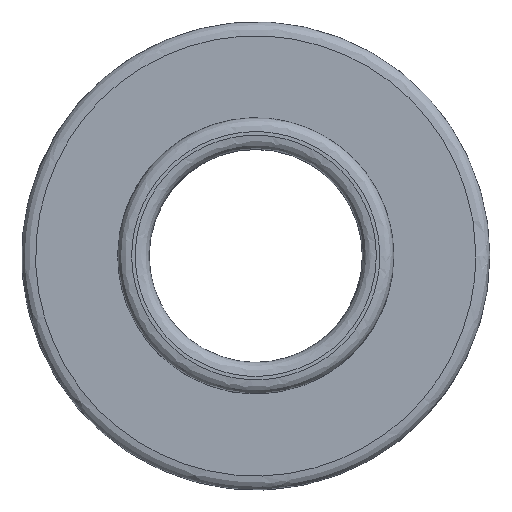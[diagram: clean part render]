
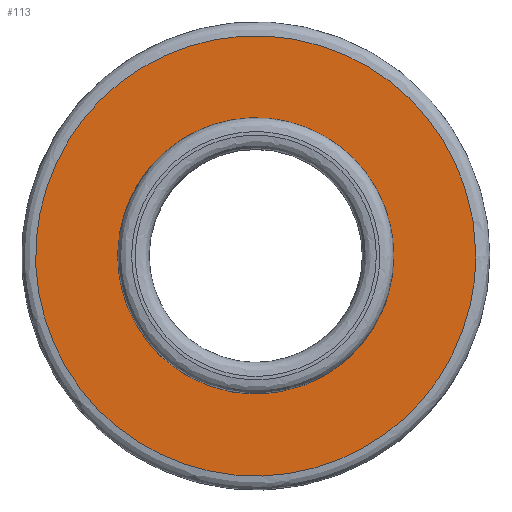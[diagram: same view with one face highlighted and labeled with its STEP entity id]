
A CAD part, top view. The second image highlights one B-rep face of the part: STEP entity #113.
In plain terms, the highlighted planar face has unit normal (0, 0, 1).
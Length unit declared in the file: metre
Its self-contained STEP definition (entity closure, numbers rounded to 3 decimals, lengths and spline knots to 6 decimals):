
#16=CIRCLE('',#137,0.001975);
#18=PLANE('',#136);
#23=ORIENTED_EDGE('',*,*,#43,.T.);
#24=ORIENTED_EDGE('',*,*,#44,.F.);
#43=EDGE_CURVE('',#53,#53,#63,.T.);
#44=EDGE_CURVE('',#54,#54,#16,.T.);
#53=VERTEX_POINT('',#207);
#54=VERTEX_POINT('',#209);
#63=B_SPLINE_CURVE_WITH_KNOTS('',3,(#188,#189,#190,#191,#192,#193,#194,#195,#196,#197,#198,#199,#200,#201,#202,#203,#204,#205,#206),.UNSPECIFIED.,.T.,.F.,(1,1,1,1,1,1,1,1,1,1,1,1,1,1,1,1,1,1,1,1,1,1,1),(-0.190789,-0.128289,-0.065789,0.,0.059375,0.121719,0.184211,0.246711,0.309211,0.371711,0.434211,0.496711,0.559211,0.621711,0.684211,0.746711,0.809211,0.871711,0.934211,1.,1.059375,1.121719,1.184211),.UNSPECIFIED.);
#71=EDGE_LOOP('',(#23));
#72=EDGE_LOOP('',(#24));
#91=FACE_BOUND('',#71,.T.);
#92=FACE_BOUND('',#72,.T.);
#113=ADVANCED_FACE('',(#91,#92),#18,.T.);
#136=AXIS2_PLACEMENT_3D('',#187,#147,#148);
#137=AXIS2_PLACEMENT_3D('',#208,#149,#150);
#147=DIRECTION('',(0.,0.,1.));
#148=DIRECTION('',(1.,0.,0.));
#149=DIRECTION('',(0.,0.,1.));
#150=DIRECTION('',(1.,0.,0.));
#187=CARTESIAN_POINT('',(0.,0.000325,0.001));
#188=CARTESIAN_POINT('',(0.002966,-0.001281,0.001));
#189=CARTESIAN_POINT('',(0.003235,-0.000041,0.001));
#190=CARTESIAN_POINT('',(0.002994,0.00119,0.001));
#191=CARTESIAN_POINT('',(0.002332,0.002241,0.001));
#192=CARTESIAN_POINT('',(0.001299,0.002953,0.001));
#193=CARTESIAN_POINT('',(0.000065,0.003234,0.001));
#194=CARTESIAN_POINT('',(-0.00117,0.003007,0.001));
#195=CARTESIAN_POINT('',(-0.002241,0.002333,0.001));
#196=CARTESIAN_POINT('',(-0.002953,0.001299,0.001));
#197=CARTESIAN_POINT('',(-0.003234,0.000065,0.001));
#198=CARTESIAN_POINT('',(-0.003007,-0.00117,0.001));
#199=CARTESIAN_POINT('',(-0.002333,-0.002241,0.001));
#200=CARTESIAN_POINT('',(-0.001299,-0.002953,0.001));
#201=CARTESIAN_POINT('',(-0.000065,-0.003234,0.001));
#202=CARTESIAN_POINT('',(0.00117,-0.003007,0.001));
#203=CARTESIAN_POINT('',(0.00224,-0.002333,0.001));
#204=CARTESIAN_POINT('',(0.002966,-0.001281,0.001));
#205=CARTESIAN_POINT('',(0.003235,-0.000041,0.001));
#206=CARTESIAN_POINT('',(0.002994,0.00119,0.001));
#207=CARTESIAN_POINT('',(0.00315,0.,0.001));
#208=CARTESIAN_POINT('',(0.,0.,0.001));
#209=CARTESIAN_POINT('',(0.001975,0.,0.001));
